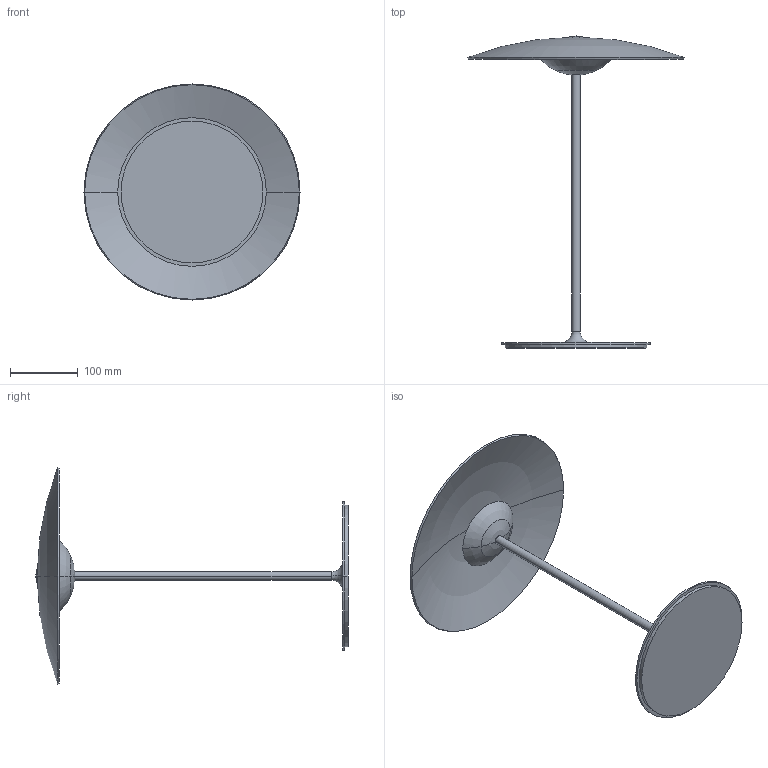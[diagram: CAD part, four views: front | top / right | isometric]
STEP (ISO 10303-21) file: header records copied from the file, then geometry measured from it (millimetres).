
FILE_DESCRIPTION((''),'2;1');
FILE_NAME('GINGER_S_ASM','2014-07-17T',('oftec'),(''),'PRO/ENGINEER BY PARAMETRIC TECHNOLOGY CORPORATION, 2012130','PRO/ENGINEER BY PARAMETRIC TECHNOLOGY CORPORATION, 2012130','');
FILE_SCHEMA(('CONFIG_CONTROL_DESIGN'));
Length unit declared in the file: millimetre
Products named in the file (10): 662-020; 662-021; 662-017; 662-018; 662-001; 662-004; 662-003; 662-036; PANT_GINGER_32_ASM; GINGER_S_ASM
Assembly tree (9 placements, depth 3):
  GINGER_S_ASM
    662-020
    662-021
    662-017
    662-018
    PANT_GINGER_32_ASM
      662-001
      662-004
      662-003
      662-036
Bounding box: 320 x 462 x 320 mm (x, y, z)
Volume: 671433 mm3; surface area: 369853.6 mm2
Topology: 8 solids, 8 shells, 62 faces, 124 edges, 74 vertices
Faces by surface type: cylinder 28, plane 14, sphere 10, torus 6, cone 4
Entity records: 1873 total; most frequent: DIRECTION 378, CARTESIAN_POINT 279, ORIENTED_EDGE 240, AXIS2_PLACEMENT_3D 173, EDGE_CURVE 120, CIRCLE 88, VERTEX_POINT 74, EDGE_LOOP 70
